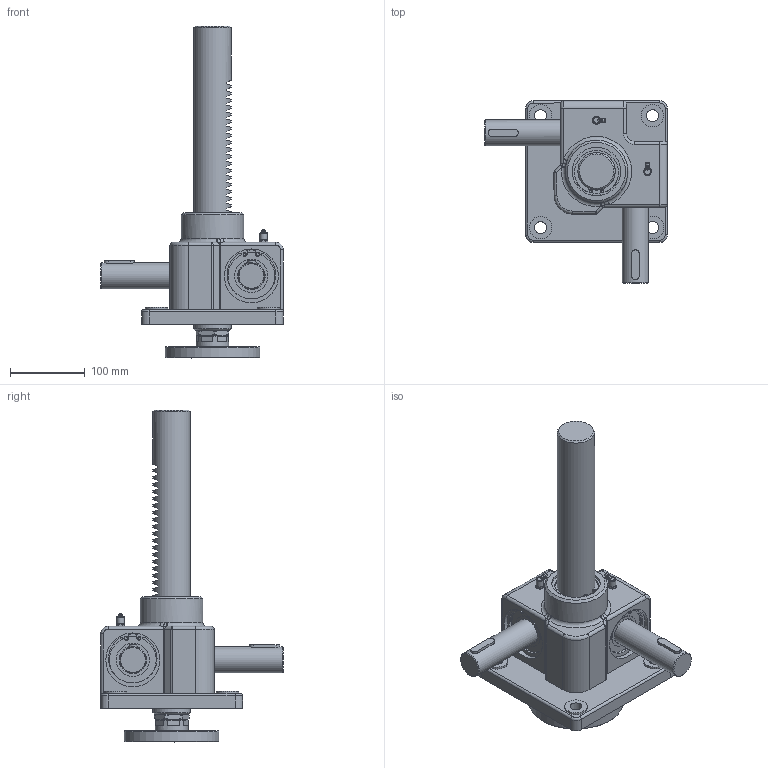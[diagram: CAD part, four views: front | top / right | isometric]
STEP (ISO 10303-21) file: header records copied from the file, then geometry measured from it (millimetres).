
FILE_DESCRIPTION(('STEP AP203'),'1');
FILE_NAME('SP1-10000FU-250ST.stp','2022-06-15T06:45:58',(' '),(' '),'Spatial InterOp 3D',' ',' ');
FILE_SCHEMA(('CONFIG_CONTROL_DESIGN'));
Length unit declared in the file: millimetre
Products named in the file (20): SP1-10000FU-250ST; Rack Gear(SP-10000F); Flange-Part; Flange; Joint; Nut; Body-Part; #607; SnapRing-68Pie; SnapRing-75Pie; #664; Key; Nipples; Shaft(SP1-10000); Gear Box(SP-10000); RJ05-4SCJ-610X600-100ST_CAP; LABEL-B.1; ___; 파트18; __
Assembly tree (26 placements, depth 5):
  SP1-10000FU-250ST
    Rack Gear(SP-10000F)
    Flange-Part
      Flange
      Joint
      Nut
    Body-Part
      #607  x2
      SnapRing-68Pie  x2
      SnapRing-75Pie  x2
      #664  x2
      Key  x2
      Nipples  x2
      Shaft(SP1-10000)  x2
      Gear Box(SP-10000)
    __
      ___
        RJ05-4SCJ-610X600-100ST_CAP
          LABEL-B.1
        파트18
Bounding box: 245.11 x 245.24 x 445 mm (x, y, z)
Volume: 2710629.4 mm3; surface area: 475164.3 mm2
Topology: 28 solids, 28 shells, 2653 faces, 7222 edges, 4614 vertices
Faces by surface type: plane 2020, cylinder 347, sphere 96, torus 62, revolution 42, extrusion 38, cone 34, bspline 14
Full cylindrical faces by diameter (mm): 3.817 x4, 4.211 x4, 4.8 x2, 8 x2, 9.886 x2, 16 x8, 28 x1, 29 x2, 30 x6, 32 x1, 35 x4, 39 x2, 44 x1, 44.54 x4, 45 x1, 50 x3, 54 x1, 55 x2, 60 x4, 62.72 x4, 65 x2, 68 x2, 72 x4, 72.4 x2, 75 x2, 84 x1, 127 x1
Entity records: 80967 total; most frequent: CARTESIAN_POINT 16734, ORIENTED_EDGE 13320, DIRECTION 12448, EDGE_CURVE 6660, VECTOR 5593, LINE 5574, VERTEX_POINT 4358, AXIS2_PLACEMENT_3D 3417
